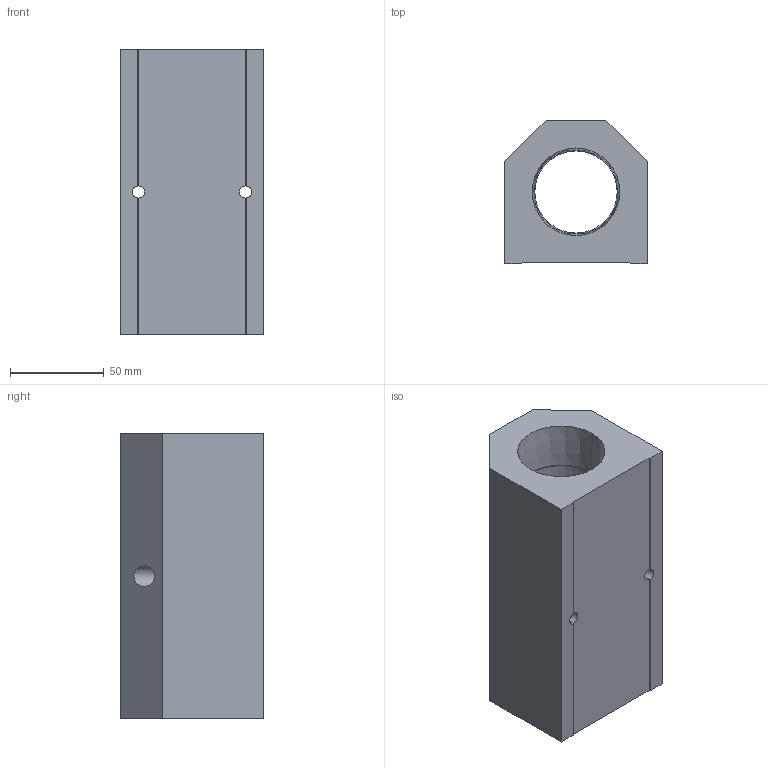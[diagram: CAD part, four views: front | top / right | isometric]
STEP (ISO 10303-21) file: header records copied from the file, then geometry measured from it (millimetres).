
FILE_DESCRIPTION (( 'STEP AP214' ), '1' );
FILE_NAME ('ALM2C-N8N24-152B.step', '2022-02-07T09:29:07', ( '' ), ( '' ), 'SwSTEP 2.0', 'SolidWorks 2020', '' );
FILE_SCHEMA (( 'AUTOMOTIVE_DESIGN' ));
Length unit declared in the file: millimetre
Products named in the file (1): ALM2C-N8N24-152B
Bounding box: 76.2 x 76.2 x 152 mm (x, y, z)
Volume: 549917.5 mm3; surface area: 74664.9 mm2
Topology: 1 solids, 1 shells, 273 faces, 719 edges, 478 vertices
Faces by surface type: plane 189, bspline 66, cylinder 10, cone 8
Entity records: 15281 total; most frequent: CARTESIAN_POINT 6305, ORIENTED_EDGE 1438, DIRECTION 1019, EDGE_CURVE 719, VECTOR 547, LINE 547, VERTEX_POINT 478, EDGE_LOOP 313
